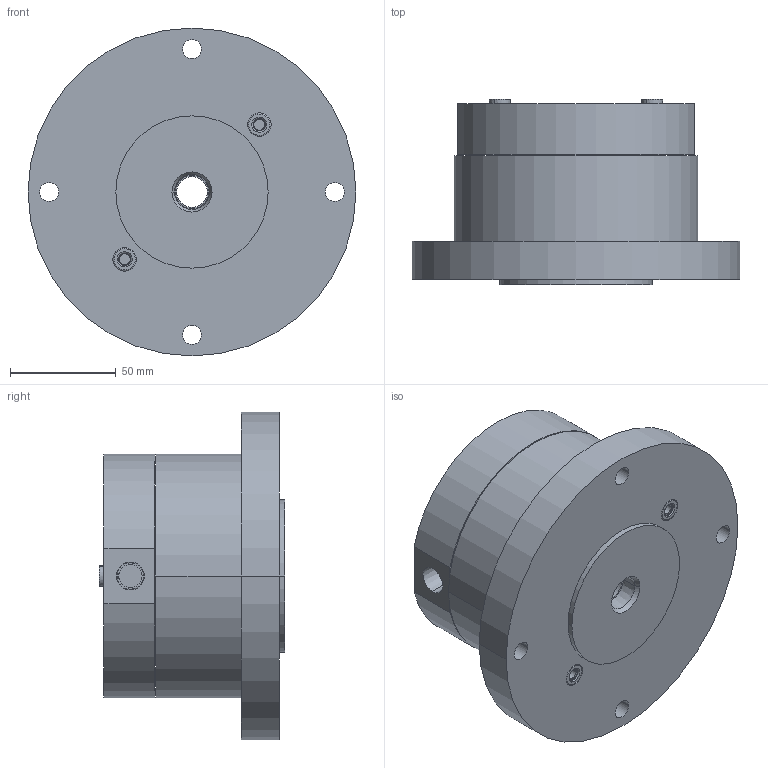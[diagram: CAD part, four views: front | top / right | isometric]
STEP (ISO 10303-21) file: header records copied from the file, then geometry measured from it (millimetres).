
FILE_DESCRIPTION((' '),'2;1');
FILE_NAME( 'PTMB02.x_t.stp', '2025-01-06T11:27:58', (' '), ('--- Datakit www.datakit.com---'), ' Datakit CrossCadWare V2024.1 Dec 21 2023', 'Mastercam 2025', ' ');
FILE_SCHEMA(('AUTOMOTIVE_DESIGN { 1 0 10303 214 1 1 1 1 }'));
Length unit declared in the file: millimetre
Products named in the file (1): PTMB02
Bounding box: 155 x 87.73 x 155 mm (x, y, z)
Volume: 993625.6 mm3; surface area: 103320.9 mm2
Topology: 4 solids, 6 shells, 152 faces, 356 edges, 238 vertices
Faces by surface type: cylinder 60, plane 52, cone 24, torus 16
Entity records: 4736 total; most frequent: DIRECTION 864, CARTESIAN_POINT 859, ORIENTED_EDGE 712, AXIS2_PLACEMENT_3D 367, EDGE_CURVE 356, VERTEX_POINT 238, CIRCLE 214, EDGE_LOOP 194
